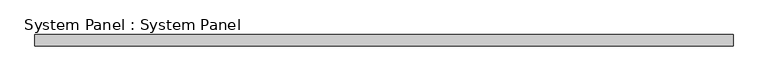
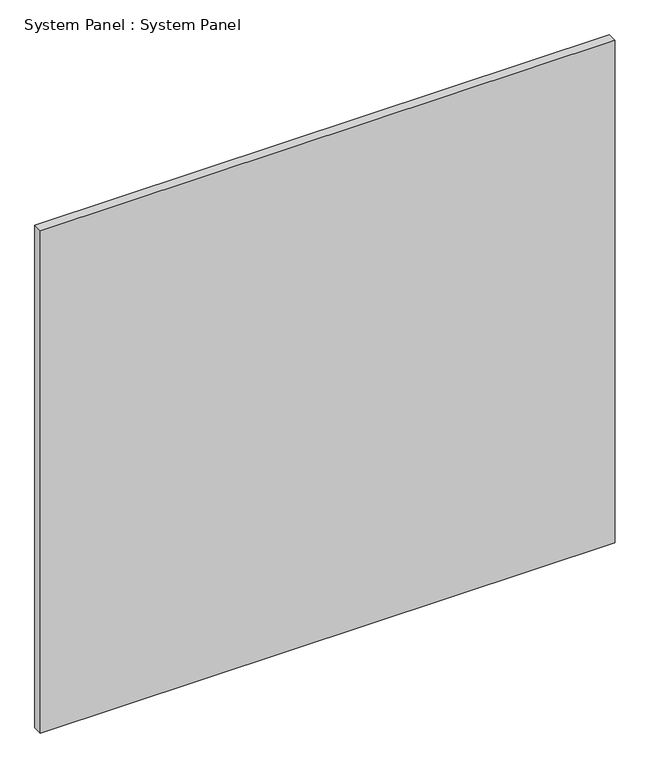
"""IFC4 building model written with IfcOpenShell, lengths in millimetres: plate geometry, System Panel : System Panel."""

from ifc_helpers import new_model, si_unit, origin, origin_with_axes, place, context, project, spatial, polyline, outline, extrude, source, transform, mapped, element, save


def system_panel_system_panel_56f1232b(model_context):
    return source(origin(), model_context, "Body", "SweptSolid", [
        extrude(outline(polyline([(793.75, 19.05), (-793.75, 19.05), (-793.75, 44.45), (793.75, 44.45), (793.75, 19.05)])), origin_with_axes(), (0.0, 0.0, 1.0), 1466.85),
    ])


if __name__ == "__main__":
    model = new_model("IFC4")
    model_context = context("Model", 3, world=origin())
    ifc_project = project(units=[si_unit("LENGTHUNIT", "METRE", prefix="MILLI")], contexts=[model_context])
    site = spatial("IfcSite", under=ifc_project)
    building = spatial("IfcBuilding", under=site)
    placement = place(None, origin())
    system_panel_system_panel_shape = system_panel_system_panel_56f1232b(model_context)
    element("IfcPlate", 1, ObjectType="System Panel : System Panel", at=placement, inside=building, context=model_context, shape_type="MappedRepresentation", body=[
        mapped(system_panel_system_panel_shape, transform((0.0, 0.0, 0.0), x_axis=(1.0, 0.0, 0.0), y_axis=(0.0, 1.0, 0.0), z_axis=(0.0, 0.0, 1.0))),
    ])
    save(model, "model.ifc")
